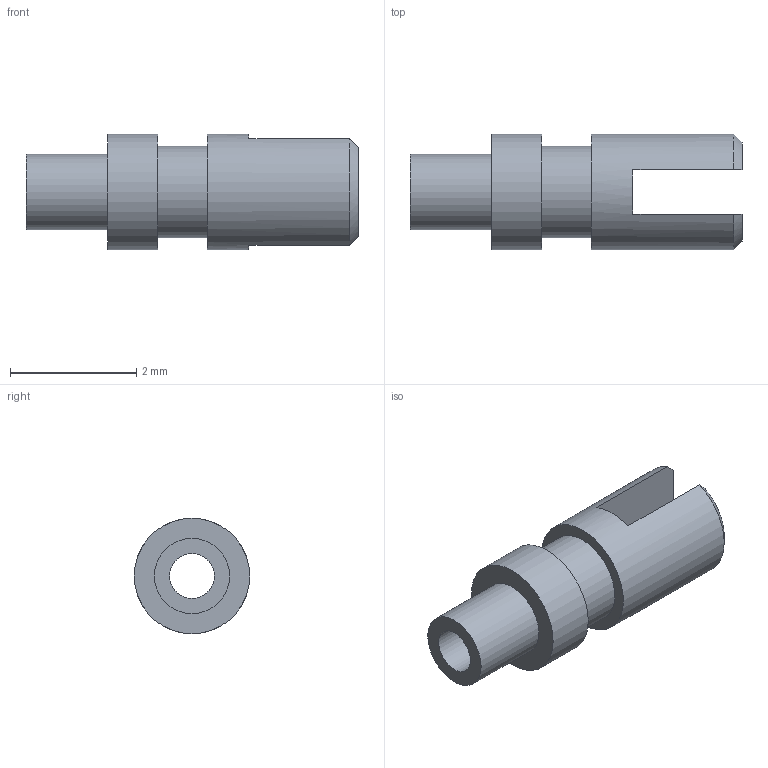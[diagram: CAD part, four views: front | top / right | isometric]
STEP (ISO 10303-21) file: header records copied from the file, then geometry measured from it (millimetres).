
FILE_DESCRIPTION(/* description */ (''),/* implementation_level */ '2;1');
FILE_NAME(/* name */ 'Z:\STEP folder\140-1019-01.ipt.stp',/* time_stamp */ '2016-12-07T10:38:21+00:00',/* author */ ('Paul Karlsons'),/* organization */ (''),/* preprocessor_version */ 'ST-DEVELOPER v15.2',/* originating_system */ 'Autodesk Inventor 2014',/* authorisation */ '');
FILE_SCHEMA (('AUTOMOTIVE_DESIGN { 1 0 10303 214 3 1 1 }'));
Length unit declared in the file: millimetre
Products named in the file (1): 140-1019-01
Bounding box: 5.26 x 1.83 x 1.83 mm (x, y, z)
Volume: 7.5 mm3; surface area: 43.9 mm2
Topology: 1 solids, 1 shells, 16 faces, 34 edges, 23 vertices
Faces by surface type: plane 9, cylinder 5, cone 2
Full cylindrical faces by diameter (mm): 0.71 x1, 1.194 x1, 1.448 x1, 1.829 x2
Entity records: 419 total; most frequent: CARTESIAN_POINT 73, DIRECTION 72, ORIENTED_EDGE 54, AXIS2_PLACEMENT_3D 32, EDGE_CURVE 27, EDGE_LOOP 26, VERTEX_POINT 21, ADVANCED_FACE 16
